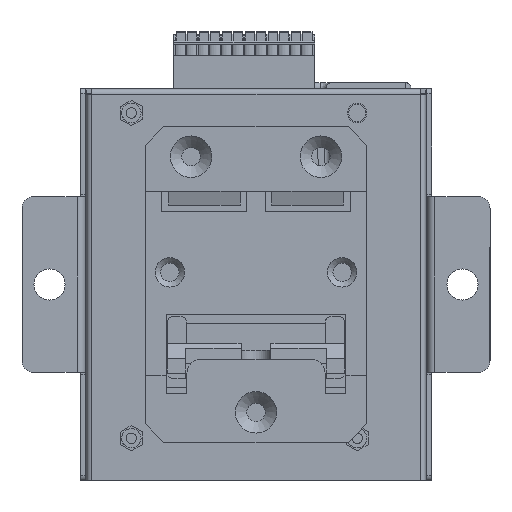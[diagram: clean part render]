
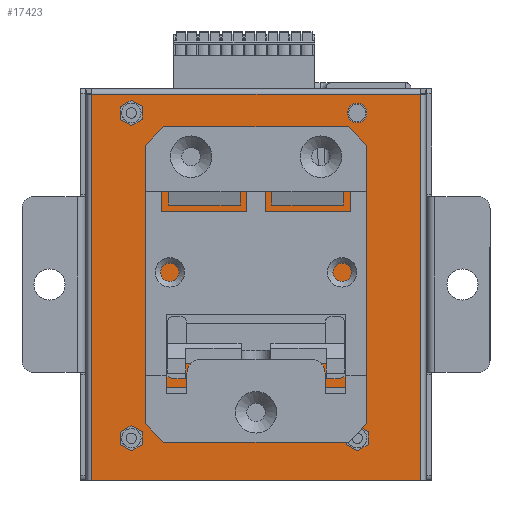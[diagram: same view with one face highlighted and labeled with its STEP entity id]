
A CAD part, front view. The second image highlights one B-rep face of the part: STEP entity #17423.
In plain terms, the highlighted planar face has unit normal (0, -1, 0).
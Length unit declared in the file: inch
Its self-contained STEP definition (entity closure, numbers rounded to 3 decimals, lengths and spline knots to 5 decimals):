
#159 = CARTESIAN_POINT ( 'NONE',  ( 1.405, -0.04, 3.3 ) ) ;
#1731 = EDGE_CURVE ( 'NONE', #53860, #53860, #45389, .T. ) ;
#1897 = VERTEX_POINT ( 'NONE', #38333 ) ;
#1950 = VERTEX_POINT ( 'NONE', #55063 ) ;
#2616 = VECTOR ( 'NONE', #54098, 39.37008 ) ;
#2749 = CARTESIAN_POINT ( 'NONE',  ( -1.41, -0.04, 3.3 ) ) ;
#3266 = DIRECTION ( 'NONE',  ( 0., 1., 0. ) ) ;
#3391 = AXIS2_PLACEMENT_3D ( 'NONE', #47273, #20400, #51833 ) ;
#4449 = ORIENTED_EDGE ( 'NONE', *, *, #51025, .F. ) ;
#4846 = CARTESIAN_POINT ( 'NONE',  ( -1.405, -0.04, 0. ) ) ;
#5494 = LINE ( 'NONE', #31713, #2616 ) ;
#5566 = EDGE_CURVE ( 'NONE', #52490, #52490, #43043, .T. ) ;
#5602 = FACE_BOUND ( 'NONE', #54404, .T. ) ;
#5850 = CARTESIAN_POINT ( 'NONE',  ( 0., -0.04, 0.49698 ) ) ;
#6073 = VECTOR ( 'NONE', #10550, 39.37008 ) ;
#6825 = AXIS2_PLACEMENT_3D ( 'NONE', #53676, #3266, #53105 ) ;
#7458 = LINE ( 'NONE', #28300, #6073 ) ;
#10550 = DIRECTION ( 'NONE',  ( 1., 0., 0. ) ) ;
#10955 = FACE_BOUND ( 'NONE', #15061, .T. ) ;
#12451 = VERTEX_POINT ( 'NONE', #5850 ) ;
#13484 = CARTESIAN_POINT ( 'NONE',  ( -1.065, -0.04, 0.35855 ) ) ;
#13636 = VERTEX_POINT ( 'NONE', #4846 ) ;
#13824 = CARTESIAN_POINT ( 'NONE',  ( 0.865, -0.04, 0.35855 ) ) ;
#14041 = VERTEX_POINT ( 'NONE', #16734 ) ;
#14120 = DIRECTION ( 'NONE',  ( 0., 0., 1. ) ) ;
#14535 = AXIS2_PLACEMENT_3D ( 'NONE', #13484, #44835, #17961 ) ;
#14613 = DIRECTION ( 'NONE',  ( 0., 1., 0. ) ) ;
#14962 = EDGE_CURVE ( 'NONE', #1950, #1950, #50629, .T. ) ;
#15061 = EDGE_LOOP ( 'NONE', ( #32220 ) ) ;
#15271 = VERTEX_POINT ( 'NONE', #159 ) ;
#15503 = EDGE_CURVE ( 'NONE', #12451, #12451, #55868, .T. ) ;
#16230 = DIRECTION ( 'NONE',  ( 1., 0., 0. ) ) ;
#16734 = CARTESIAN_POINT ( 'NONE',  ( 1.405, -0.04, 0. ) ) ;
#17423 = ADVANCED_FACE ( 'NONE', ( #48394, #36550, #5602, #45558, #47005, #39964, #10955, #48293 ), #34086, .F. ) ;
#17465 = AXIS2_PLACEMENT_3D ( 'NONE', #2749, #14613, #54628 ) ;
#17961 = DIRECTION ( 'NONE',  ( 0., 0., 1. ) ) ;
#18760 = ORIENTED_EDGE ( 'NONE', *, *, #14962, .T. ) ;
#18780 = AXIS2_PLACEMENT_3D ( 'NONE', #50742, #27715, #57198 ) ;
#19539 = AXIS2_PLACEMENT_3D ( 'NONE', #43263, #49807, #49007 ) ;
#20400 = DIRECTION ( 'NONE',  ( 0., -1., 0. ) ) ;
#20700 = EDGE_LOOP ( 'NONE', ( #41586, #30108, #4449, #41843 ) ) ;
#21746 = EDGE_LOOP ( 'NONE', ( #18760 ) ) ;
#22856 = DIRECTION ( 'NONE',  ( 0., 1., 0. ) ) ;
#23445 = AXIS2_PLACEMENT_3D ( 'NONE', #13824, #22856, #14120 ) ;
#23446 = CARTESIAN_POINT ( 'NONE',  ( 0.865, -0.04, 3.22155 ) ) ;
#24358 = LINE ( 'NONE', #43143, #33459 ) ;
#25465 = DIRECTION ( 'NONE',  ( 0., -1., 0. ) ) ;
#27715 = DIRECTION ( 'NONE',  ( 0., -1., 0. ) ) ;
#28300 = CARTESIAN_POINT ( 'NONE',  ( -1.41, -0.04, 3.3 ) ) ;
#30028 = CIRCLE ( 'NONE', #38415, 0.083 ) ;
#30108 = ORIENTED_EDGE ( 'NONE', *, *, #43277, .F. ) ;
#31332 = VERTEX_POINT ( 'NONE', #46899 ) ;
#31713 = CARTESIAN_POINT ( 'NONE',  ( 1.405, -0.04, 3.3 ) ) ;
#32220 = ORIENTED_EDGE ( 'NONE', *, *, #54181, .F. ) ;
#33459 = VECTOR ( 'NONE', #16230, 39.37008 ) ;
#34086 = PLANE ( 'NONE',  #17465 ) ;
#36550 = FACE_BOUND ( 'NONE', #56950, .T. ) ;
#38333 = CARTESIAN_POINT ( 'NONE',  ( 0.55512, -0.04, 2.68202 ) ) ;
#38415 = AXIS2_PLACEMENT_3D ( 'NONE', #52377, #25465, #56895 ) ;
#39809 = EDGE_CURVE ( 'NONE', #31332, #31332, #40652, .T. ) ;
#39964 = FACE_OUTER_BOUND ( 'NONE', #20700, .T. ) ;
#40652 = CIRCLE ( 'NONE', #14535, 0.083 ) ;
#41284 = CARTESIAN_POINT ( 'NONE',  ( -1.065, -0.04, 3.22155 ) ) ;
#41586 = ORIENTED_EDGE ( 'NONE', *, *, #42920, .T. ) ;
#41843 = ORIENTED_EDGE ( 'NONE', *, *, #57611, .T. ) ;
#42339 = ORIENTED_EDGE ( 'NONE', *, *, #39809, .T. ) ;
#42920 = EDGE_CURVE ( 'NONE', #13636, #14041, #24358, .T. ) ;
#43043 = CIRCLE ( 'NONE', #6825, 0.083 ) ;
#43143 = CARTESIAN_POINT ( 'NONE',  ( -1.41, -0.04, 0. ) ) ;
#43263 = CARTESIAN_POINT ( 'NONE',  ( -1.065, -0.04, 3.13855 ) ) ;
#43277 = EDGE_CURVE ( 'NONE', #15271, #14041, #5494, .T. ) ;
#43659 = ORIENTED_EDGE ( 'NONE', *, *, #15503, .F. ) ;
#44835 = DIRECTION ( 'NONE',  ( 0., 1., 0. ) ) ;
#45389 = CIRCLE ( 'NONE', #19539, 0.083 ) ;
#45558 = FACE_BOUND ( 'NONE', #47388, .T. ) ;
#46186 = CARTESIAN_POINT ( 'NONE',  ( -1.405, -0.04, 3.3 ) ) ;
#46284 = EDGE_LOOP ( 'NONE', ( #49957 ) ) ;
#46722 = VERTEX_POINT ( 'NONE', #51881 ) ;
#46899 = CARTESIAN_POINT ( 'NONE',  ( -1.065, -0.04, 0.44155 ) ) ;
#47005 = FACE_BOUND ( 'NONE', #21746, .T. ) ;
#47273 = CARTESIAN_POINT ( 'NONE',  ( 0.55512, -0.04, 2.76502 ) ) ;
#47388 = EDGE_LOOP ( 'NONE', ( #42339 ) ) ;
#47539 = DIRECTION ( 'NONE',  ( 0., 0., -1. ) ) ;
#48293 = FACE_BOUND ( 'NONE', #46284, .T. ) ;
#48394 = FACE_BOUND ( 'NONE', #50551, .T. ) ;
#49007 = DIRECTION ( 'NONE',  ( 0., 0., 1. ) ) ;
#49807 = DIRECTION ( 'NONE',  ( 0., 1., 0. ) ) ;
#49957 = ORIENTED_EDGE ( 'NONE', *, *, #56898, .F. ) ;
#50551 = EDGE_LOOP ( 'NONE', ( #43659 ) ) ;
#50629 = CIRCLE ( 'NONE', #23445, 0.083 ) ;
#50742 = CARTESIAN_POINT ( 'NONE',  ( 0., -0.04, 0.57998 ) ) ;
#51025 = EDGE_CURVE ( 'NONE', #57421, #15271, #7458, .T. ) ;
#51833 = DIRECTION ( 'NONE',  ( 0., 0., -1. ) ) ;
#51881 = CARTESIAN_POINT ( 'NONE',  ( -0.55512, -0.04, 2.68202 ) ) ;
#52113 = CARTESIAN_POINT ( 'NONE',  ( -1.405, -0.04, 3.3 ) ) ;
#52377 = CARTESIAN_POINT ( 'NONE',  ( -0.55512, -0.04, 2.76502 ) ) ;
#52490 = VERTEX_POINT ( 'NONE', #23446 ) ;
#52638 = CIRCLE ( 'NONE', #3391, 0.083 ) ;
#53074 = ORIENTED_EDGE ( 'NONE', *, *, #5566, .T. ) ;
#53105 = DIRECTION ( 'NONE',  ( 0., 0., 1. ) ) ;
#53406 = VECTOR ( 'NONE', #47539, 39.37008 ) ;
#53676 = CARTESIAN_POINT ( 'NONE',  ( 0.865, -0.04, 3.13855 ) ) ;
#53860 = VERTEX_POINT ( 'NONE', #41284 ) ;
#54098 = DIRECTION ( 'NONE',  ( 0., 0., -1. ) ) ;
#54181 = EDGE_CURVE ( 'NONE', #1897, #1897, #52638, .T. ) ;
#54335 = ORIENTED_EDGE ( 'NONE', *, *, #1731, .T. ) ;
#54404 = EDGE_LOOP ( 'NONE', ( #54335 ) ) ;
#54628 = DIRECTION ( 'NONE',  ( 0., 0., 1. ) ) ;
#54861 = LINE ( 'NONE', #52113, #53406 ) ;
#55063 = CARTESIAN_POINT ( 'NONE',  ( 0.865, -0.04, 0.44155 ) ) ;
#55868 = CIRCLE ( 'NONE', #18780, 0.083 ) ;
#56895 = DIRECTION ( 'NONE',  ( 0., 0., -1. ) ) ;
#56898 = EDGE_CURVE ( 'NONE', #46722, #46722, #30028, .T. ) ;
#56950 = EDGE_LOOP ( 'NONE', ( #53074 ) ) ;
#57198 = DIRECTION ( 'NONE',  ( 0., 0., -1. ) ) ;
#57421 = VERTEX_POINT ( 'NONE', #46186 ) ;
#57611 = EDGE_CURVE ( 'NONE', #57421, #13636, #54861, .T. ) ;
